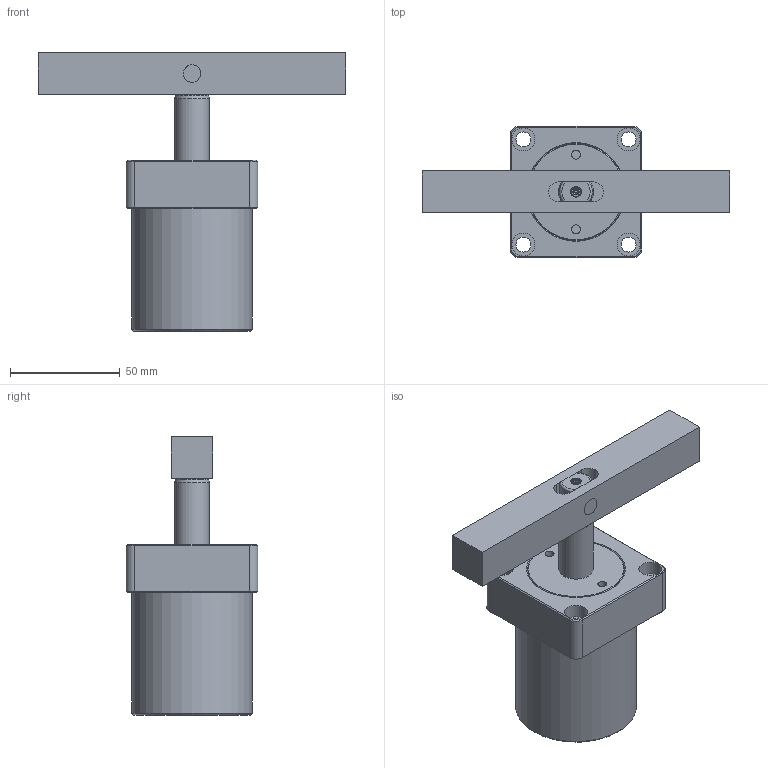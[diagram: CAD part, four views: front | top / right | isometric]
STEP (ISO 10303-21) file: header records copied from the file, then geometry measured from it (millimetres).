
FILE_DESCRIPTION(/* description */ ('Unknown'),/* implementation_level */ '2;1');
FILE_NAME(/* name */ 'ASC-FA40D-B',/* time_stamp */ '2019-05-20T10:28:20+08:00',/* author */ ('Unknown'),/* organization */ ('Unknown'),/* preprocessor_version */ 'ST-DEVELOPER v16.7',/* originating_system */ 'DEX',/* authorisation */ $);
FILE_SCHEMA (('AUTOMOTIVE_DESIGN {1 0 10303 214 3 1 1}'));
Length unit declared in the file: millimetre
Products named in the file (5): ASC-FA40D-B; ASC-FA40D-CYLINDER; ASC-4002-D-AXLE CENTRE; ASC-40D-B; ASC-4002-D-FIXED PIN
Assembly tree (4 placements, depth 2):
  ASC-FA40D-B
    ASC-FA40D-CYLINDER
    ASC-4002-D-AXLE CENTRE
    ASC-40D-B
    ASC-4002-D-FIXED PIN
Bounding box: 140 x 60 x 127 mm (x, y, z)
Volume: 228252.1 mm3; surface area: 52746 mm2
Topology: 4 solids, 4 shells, 114 faces, 239 edges, 148 vertices
Faces by surface type: plane 51, cylinder 29, cone 18, bspline 12, torus 4
Full cylindrical faces by diameter (mm): 4.1 x2, 6.8 x4, 8 x4, 9.147 x2, 10.5 x4, 16 x2, 40 x2, 55 x1
Entity records: 3401 total; most frequent: CARTESIAN_POINT 633, DIRECTION 484, ORIENTED_EDGE 382, AXIS2_PLACEMENT_3D 202, EDGE_CURVE 191, EDGE_LOOP 178, FACE_BOUND 178, VERTEX_POINT 133
